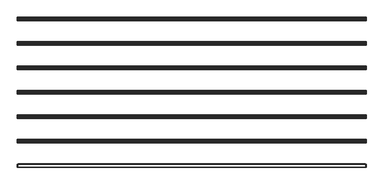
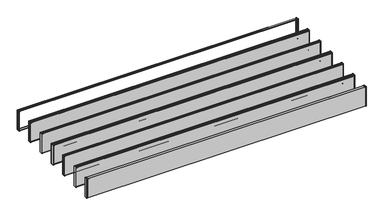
"""IFC4 building model written with IfcOpenShell, lengths in millimetres: proxy geometry, durlum_POLYLAM_KS : durlum_POLYLAM-KS/-S 40."""

from ifc_helpers import new_model, si_unit, frame, origin, place, context, project, spatial, polyline, circle_curve, outline, extrude, source, transform, mapped, element, save
from ifc_brep_helpers import plane_surface, cylinder_surface, advanced_brep


def generic_models_343f9e44(model_context):
    return source(origin(), model_context, "Body", "SolidModel", [
        advanced_brep(
        [(1995.0, 298.0, 1990.9), (1995.0, 288.0, 1990.9), (1995.0, 288.0, 1990.0604454), (1995.0, 299.0, 1990.0604454), (1995.0, 299.0, 1691.9), (1995.0, 261.0, 1691.9), (1995.0, 261.0, 1989.8155735), (1995.0, 272.0, 1989.8155735), (1995.0, 272.0, 1990.9), (1995.0, 262.0, 1990.9), (1995.0, 260.0, 1988.9), (1995.0, 260.0, 1692.9), (1995.0, 262.0, 1690.9), (1995.0, 298.0, 1690.9), (1995.0, 300.0, 1692.9), (1995.0, 300.0, 1988.9), (-1995.0, 298.0, 1990.9), (-1995.0, 300.0, 1988.9), (-1995.0, 300.0, 1692.9), (-1995.0, 298.0, 1690.9), (-1995.0, 262.0, 1690.9), (-1995.0, 260.0, 1692.9), (-1995.0, 260.0, 1988.9), (-1995.0, 262.0, 1990.9), (-1995.0, 272.0, 1990.9), (-1995.0, 272.0, 1989.8155735), (-1995.0, 261.0, 1989.8155735), (-1995.0, 261.0, 1691.9), (-1995.0, 299.0, 1691.9), (-1995.0, 299.0, 1990.0604454), (-1995.0, 288.0, 1990.0604454), (-1995.0, 288.0, 1990.9), (-1986.5, 299.0, 1982.4), (1986.5, 299.0, 1982.4), (1986.5, 299.0, 1699.4), (-1986.5, 299.0, 1699.4), (1986.5, 261.0, 1982.4), (-1986.5, 261.0, 1982.4), (-1986.5, 261.0, 1699.4), (1986.5, 261.0, 1699.4), (-1986.5, 260.0, 1982.4), (1986.5, 260.0, 1982.4), (1986.5, 260.0, 1699.4), (-1986.5, 260.0, 1699.4), (1986.5, 300.0, 1982.4), (-1986.5, 300.0, 1982.4), (-1986.5, 300.0, 1699.4), (1986.5, 300.0, 1699.4)],
        [
            (0, 1),
            (1, 2),
            (2, 3),
            (3, 4),
            (4, 5),
            (5, 6),
            (6, 7),
            (7, 8),
            (8, 9),
            (9, 10, circle_curve(frame((1995.0, 262.0, 1988.9), z_axis=(1.0, 0.0, 0.0), x_axis=(0.0, 1.0, 0.0)), 2.0)),
            (10, 11),
            (11, 12, circle_curve(frame((1995.0, 262.0, 1692.9), z_axis=(1.0, 0.0, 0.0), x_axis=(0.0, 1.0, 0.0)), 2.0)),
            (12, 13),
            (13, 14, circle_curve(frame((1995.0, 298.0, 1692.9), z_axis=(1.0, 0.0, 0.0), x_axis=(0.0, 1.0, 0.0)), 2.0)),
            (14, 15),
            (15, 0, circle_curve(frame((1995.0, 298.0, 1988.9), z_axis=(1.0, 0.0, 0.0), x_axis=(0.0, 1.0, 0.0)), 2.0)),
            (16, 17, circle_curve(frame((-1995.0, 298.0, 1988.9), z_axis=(-1.0, 0.0, 0.0), x_axis=(0.0, 1.0, 0.0)), 2.0)),
            (17, 18),
            (18, 19, circle_curve(frame((-1995.0, 298.0, 1692.9), z_axis=(-1.0, 0.0, 0.0), x_axis=(0.0, 1.0, 0.0)), 2.0)),
            (19, 20),
            (20, 21, circle_curve(frame((-1995.0, 262.0, 1692.9), z_axis=(-1.0, 0.0, 0.0), x_axis=(0.0, 1.0, 0.0)), 2.0)),
            (21, 22),
            (22, 23, circle_curve(frame((-1995.0, 262.0, 1988.9), z_axis=(-1.0, 0.0, 0.0), x_axis=(0.0, 1.0, 0.0)), 2.0)),
            (23, 24),
            (24, 25),
            (25, 26),
            (26, 27),
            (27, 28),
            (28, 29),
            (29, 30),
            (30, 31),
            (31, 16),
            (0, 16),
            (31, 1),
            (30, 2),
            (29, 3),
            (28, 4),
            (32, 33),
            (33, 34),
            (34, 35),
            (35, 32),
            (27, 5),
            (26, 6),
            (36, 37),
            (37, 38),
            (38, 39),
            (39, 36),
            (25, 7),
            (24, 8),
            (23, 9),
            (10, 22),
            (21, 11),
            (40, 41),
            (41, 42),
            (42, 43),
            (43, 40),
            (12, 20),
            (19, 13),
            (14, 18),
            (17, 15),
            (44, 45),
            (45, 46),
            (46, 47),
            (47, 44),
            (44, 33),
            (32, 45),
            (36, 41),
            (40, 37),
            (35, 46),
            (43, 38),
            (34, 47),
            (42, 39),
        ],
        [
            plane_surface(frame((1995.0, 288.0, 1990.9), z_axis=(1.0, 0.0, 0.0), x_axis=(0.0, -1.0, 0.0))),
            plane_surface(frame((-1995.0, 288.0, 1990.9), z_axis=(-1.0, 0.0, 0.0), x_axis=(0.0, 1.0, 0.0))),
            plane_surface(frame((1995.0, 298.0, 1990.9), z_axis=(0.0, 0.0, 1.0), x_axis=(-1.0, 0.0, 0.0))),
            plane_surface(frame((1995.0, 288.0, 1990.9), z_axis=(0.0, -1.0, 0.0), x_axis=(-1.0, 0.0, 0.0))),
            plane_surface(frame((1995.0, 288.0, 1990.0604454), z_axis=(0.0, 0.0, -1.0), x_axis=(-1.0, 0.0, 0.0))),
            plane_surface(frame((1995.0, 299.0, 1990.0604454), z_axis=(0.0, -1.0, 0.0), x_axis=(-1.0, 0.0, 0.0))),
            plane_surface(frame((1995.0, 299.0, 1691.9), z_axis=(0.0, 0.0, 1.0), x_axis=(-1.0, 0.0, 0.0))),
            plane_surface(frame((1995.0, 261.0, 1691.9), z_axis=(0.0, 1.0, 0.0), x_axis=(-1.0, 0.0, 0.0))),
            plane_surface(frame((1995.0, 261.0, 1989.8155735), z_axis=(0.0, 0.0, -1.0), x_axis=(-1.0, 0.0, 0.0))),
            plane_surface(frame((1995.0, 272.0, 1989.8155735), z_axis=(0.0, 1.0, 0.0), x_axis=(-1.0, 0.0, 0.0))),
            plane_surface(frame((1995.0, 272.0, 1990.9), z_axis=(0.0, 0.0, 1.0), x_axis=(-1.0, 0.0, 0.0))),
            plane_surface(frame((1995.0, 260.0, 1988.9), z_axis=(0.0, -1.0, 0.0), x_axis=(-1.0, 0.0, 0.0))),
            plane_surface(frame((1995.0, 262.0, 1690.9), z_axis=(0.0, 0.0, -1.0), x_axis=(-1.0, 0.0, 0.0))),
            plane_surface(frame((1995.0, 300.0, 1692.9), z_axis=(0.0, 1.0, 0.0), x_axis=(-1.0, 0.0, 0.0))),
            cylinder_surface(frame((-1995.0, 262.0, 1988.9), z_axis=(1.0, 0.0, 0.0), x_axis=(0.0, 1.0, 0.0)), 2.0),
            cylinder_surface(frame((-1995.0, 262.0, 1692.9), z_axis=(1.0, 0.0, 0.0), x_axis=(0.0, 1.0, 0.0)), 2.0),
            cylinder_surface(frame((-1995.0, 298.0, 1692.9), z_axis=(1.0, 0.0, 0.0), x_axis=(0.0, 1.0, 0.0)), 2.0),
            cylinder_surface(frame((-1995.0, 298.0, 1988.9), z_axis=(1.0, 0.0, 0.0), x_axis=(0.0, 1.0, 0.0)), 2.0),
            plane_surface(frame((1986.5, 260.0, 1982.4), z_axis=(0.0, 0.0, -1.0), x_axis=(0.0, 1.0, 0.0))),
            plane_surface(frame((-1986.5, 260.0, 1982.4), z_axis=(1.0, 0.0, 0.0), x_axis=(0.0, 1.0, 0.0))),
            plane_surface(frame((-1986.5, 260.0, 1699.4), z_axis=(0.0, 0.0, 1.0), x_axis=(0.0, 1.0, 0.0))),
            plane_surface(frame((1986.5, 260.0, 1699.4), z_axis=(-1.0, 0.0, 0.0), x_axis=(0.0, 1.0, 0.0))),
        ],
        [
            (0, [[1, 2, 3, 4, 5, 6, 7, 8, 9, 10, 11, 12, 13, 14, 15, 16]]),
            (1, [[17, 18, 19, 20, 21, 22, 23, 24, 25, 26, 27, 28, 29, 30, 31, 32]]),
            (2, [[-1, 33, -32, 34]]),
            (3, [[-2, -34, -31, 35]]),
            (4, [[-3, -35, -30, 36]]),
            (5, [[-4, -36, -29, 37], [38, 39, 40, 41]]),
            (6, [[-5, -37, -28, 42]]),
            (7, [[-6, -42, -27, 43], [44, 45, 46, 47]]),
            (8, [[-7, -43, -26, 48]]),
            (9, [[-8, -48, -25, 49]]),
            (10, [[-9, -49, -24, 50]]),
            (11, [[-11, 51, -22, 52], [53, 54, 55, 56]]),
            (12, [[-13, 57, -20, 58]]),
            (13, [[-15, 59, -18, 60], [61, 62, 63, 64]]),
            (14, [[-10, -50, -23, -51]]),
            (15, [[-12, -52, -21, -57]]),
            (16, [[-14, -58, -19, -59]]),
            (17, [[-16, -60, -17, -33]]),
            (18, [[65, -38, 66, -61]]),
            (18, [[67, -53, 68, -44]]),
            (19, [[-66, -41, 69, -62]]),
            (19, [[-68, -56, 70, -45]]),
            (20, [[-69, -40, 71, -63]]),
            (20, [[-70, -55, 72, -46]]),
            (21, [[-65, -64, -71, -39]]),
            (21, [[-67, -47, -72, -54]]),
        ],
    ),
        extrude(outline(polyline([(1986.5, 19.0), (-1986.5, 19.0), (-1986.5, 20.0), (1986.5, 20.0), (1986.5, 19.0)])), frame((0.0, 0.0, 1699.4), z_axis=(0.0, 0.0, 1.0), x_axis=(1.0, 0.0, 0.0)), (0.0, 0.0, 1.0), 283.0),
        extrude(outline(polyline([(1986.5, -20.0), (-1986.5, -20.0), (-1986.5, -19.0), (1986.5, -19.0), (1986.5, -20.0)])), frame((0.0, 0.0, 1699.4), z_axis=(0.0, 0.0, 1.0), x_axis=(1.0, 0.0, 0.0)), (0.0, 0.0, 1.0), 283.0),
        extrude(outline(polyline([(1993.0, 19.0), (1995.0, 19.0), (1995.0, -19.0), (1993.0, -19.0), (1993.0, 19.0)])), frame((0.0, 0.0, 1691.9), z_axis=(0.0, 0.0, 1.0), x_axis=(1.0, 0.0, 0.0)), (0.0, 0.0, 1.0), 298.1604454),
        extrude(outline(polyline([(-1995.0, 19.0), (-1993.0, 19.0), (-1993.0, -19.0), (-1995.0, -19.0), (-1995.0, 19.0)])), frame((0.0, 0.0, 1691.9), z_axis=(0.0, 0.0, 1.0), x_axis=(1.0, 0.0, 0.0)), (0.0, 0.0, 1.0), 298.1604454),
        advanced_brep(
        [(1995.0, 18.0, 1990.9), (1995.0, 8.0, 1990.9), (1995.0, 8.0, 1990.0604454), (1995.0, 19.0, 1990.0604454), (1995.0, 19.0, 1691.9), (1995.0, -19.0, 1691.9), (1995.0, -19.0, 1989.8155735), (1995.0, -8.0, 1989.8155735), (1995.0, -8.0, 1990.9), (1995.0, -18.0, 1990.9), (1995.0, -20.0, 1988.9), (1995.0, -20.0, 1692.9), (1995.0, -18.0, 1690.9), (1995.0, 18.0, 1690.9), (1995.0, 20.0, 1692.9), (1995.0, 20.0, 1988.9), (-1995.0, 18.0, 1990.9), (-1995.0, 20.0, 1988.9), (-1995.0, 20.0, 1692.9), (-1995.0, 18.0, 1690.9), (-1995.0, -18.0, 1690.9), (-1995.0, -20.0, 1692.9), (-1995.0, -20.0, 1988.9), (-1995.0, -18.0, 1990.9), (-1995.0, -8.0, 1990.9), (-1995.0, -8.0, 1989.8155735), (-1995.0, -19.0, 1989.8155735), (-1995.0, -19.0, 1691.9), (-1995.0, 19.0, 1691.9), (-1995.0, 19.0, 1990.0604454), (-1995.0, 8.0, 1990.0604454), (-1995.0, 8.0, 1990.9), (-1986.5, 19.0, 1982.4), (1986.5, 19.0, 1982.4), (1986.5, 19.0, 1699.4), (-1986.5, 19.0, 1699.4), (1986.5, -19.0, 1982.4), (-1986.5, -19.0, 1982.4), (-1986.5, -19.0, 1699.4), (1986.5, -19.0, 1699.4), (-1986.5, -20.0, 1982.4), (1986.5, -20.0, 1982.4), (1986.5, -20.0, 1699.4), (-1986.5, -20.0, 1699.4), (1986.5, 20.0, 1982.4), (-1986.5, 20.0, 1982.4), (-1986.5, 20.0, 1699.4), (1986.5, 20.0, 1699.4)],
        [
            (0, 1),
            (1, 2),
            (2, 3),
            (3, 4),
            (4, 5),
            (5, 6),
            (6, 7),
            (7, 8),
            (8, 9),
            (9, 10, circle_curve(frame((1995.0, -18.0, 1988.9), z_axis=(1.0, 0.0, 0.0), x_axis=(0.0, 1.0, 0.0)), 2.0)),
            (10, 11),
            (11, 12, circle_curve(frame((1995.0, -18.0, 1692.9), z_axis=(1.0, 0.0, 0.0), x_axis=(0.0, 1.0, 0.0)), 2.0)),
            (12, 13),
            (13, 14, circle_curve(frame((1995.0, 18.0, 1692.9), z_axis=(1.0, 0.0, 0.0), x_axis=(0.0, 1.0, 0.0)), 2.0)),
            (14, 15),
            (15, 0, circle_curve(frame((1995.0, 18.0, 1988.9), z_axis=(1.0, 0.0, 0.0), x_axis=(0.0, 1.0, 0.0)), 2.0)),
            (16, 17, circle_curve(frame((-1995.0, 18.0, 1988.9), z_axis=(-1.0, 0.0, 0.0), x_axis=(0.0, 1.0, 0.0)), 2.0)),
            (17, 18),
            (18, 19, circle_curve(frame((-1995.0, 18.0, 1692.9), z_axis=(-1.0, 0.0, 0.0), x_axis=(0.0, 1.0, 0.0)), 2.0)),
            (19, 20),
            (20, 21, circle_curve(frame((-1995.0, -18.0, 1692.9), z_axis=(-1.0, 0.0, 0.0), x_axis=(0.0, 1.0, 0.0)), 2.0)),
            (21, 22),
            (22, 23, circle_curve(frame((-1995.0, -18.0, 1988.9), z_axis=(-1.0, 0.0, 0.0), x_axis=(0.0, 1.0, 0.0)), 2.0)),
            (23, 24),
            (24, 25),
            (25, 26),
            (26, 27),
            (27, 28),
            (28, 29),
            (29, 30),
            (30, 31),
            (31, 16),
            (0, 16),
            (31, 1),
            (30, 2),
            (29, 3),
            (28, 4),
            (32, 33),
            (33, 34),
            (34, 35),
            (35, 32),
            (27, 5),
            (26, 6),
            (36, 37),
            (37, 38),
            (38, 39),
            (39, 36),
            (25, 7),
            (24, 8),
            (23, 9),
            (10, 22),
            (21, 11),
            (40, 41),
            (41, 42),
            (42, 43),
            (43, 40),
            (12, 20),
            (19, 13),
            (14, 18),
            (17, 15),
            (44, 45),
            (45, 46),
            (46, 47),
            (47, 44),
            (44, 33),
            (32, 45),
            (36, 41),
            (40, 37),
            (35, 46),
            (43, 38),
            (34, 47),
            (42, 39),
        ],
        [
            plane_surface(frame((1995.0, 8.0, 1990.9), z_axis=(1.0, 0.0, 0.0), x_axis=(0.0, -1.0, 0.0))),
            plane_surface(frame((-1995.0, 8.0, 1990.9), z_axis=(-1.0, 0.0, 0.0), x_axis=(0.0, 1.0, 0.0))),
            plane_surface(frame((1995.0, 18.0, 1990.9), z_axis=(0.0, 0.0, 1.0), x_axis=(-1.0, 0.0, 0.0))),
            plane_surface(frame((1995.0, 8.0, 1990.9), z_axis=(0.0, -1.0, 0.0), x_axis=(-1.0, 0.0, 0.0))),
            plane_surface(frame((1995.0, 8.0, 1990.0604454), z_axis=(0.0, 0.0, -1.0), x_axis=(-1.0, 0.0, 0.0))),
            plane_surface(frame((1995.0, 19.0, 1990.0604454), z_axis=(0.0, -1.0, 0.0), x_axis=(-1.0, 0.0, 0.0))),
            plane_surface(frame((1995.0, 19.0, 1691.9), z_axis=(0.0, 0.0, 1.0), x_axis=(-1.0, 0.0, 0.0))),
            plane_surface(frame((1995.0, -19.0, 1691.9), z_axis=(0.0, 1.0, 0.0), x_axis=(-1.0, 0.0, 0.0))),
            plane_surface(frame((1995.0, -19.0, 1989.8155735), z_axis=(0.0, 0.0, -1.0), x_axis=(-1.0, 0.0, 0.0))),
            plane_surface(frame((1995.0, -8.0, 1989.8155735), z_axis=(0.0, 1.0, 0.0), x_axis=(-1.0, 0.0, 0.0))),
            plane_surface(frame((1995.0, -8.0, 1990.9), z_axis=(0.0, 0.0, 1.0), x_axis=(-1.0, 0.0, 0.0))),
            plane_surface(frame((1995.0, -20.0, 1988.9), z_axis=(0.0, -1.0, 0.0), x_axis=(-1.0, 0.0, 0.0))),
            plane_surface(frame((1995.0, -18.0, 1690.9), z_axis=(0.0, 0.0, -1.0), x_axis=(-1.0, 0.0, 0.0))),
            plane_surface(frame((1995.0, 20.0, 1692.9), z_axis=(0.0, 1.0, 0.0), x_axis=(-1.0, 0.0, 0.0))),
            cylinder_surface(frame((-1995.0, -18.0, 1988.9), z_axis=(1.0, 0.0, 0.0), x_axis=(0.0, 1.0, 0.0)), 2.0),
            cylinder_surface(frame((-1995.0, -18.0, 1692.9), z_axis=(1.0, 0.0, 0.0), x_axis=(0.0, 1.0, 0.0)), 2.0),
            cylinder_surface(frame((-1995.0, 18.0, 1692.9), z_axis=(1.0, 0.0, 0.0), x_axis=(0.0, 1.0, 0.0)), 2.0),
            cylinder_surface(frame((-1995.0, 18.0, 1988.9), z_axis=(1.0, 0.0, 0.0), x_axis=(0.0, 1.0, 0.0)), 2.0),
            plane_surface(frame((1986.5, -20.0, 1982.4), z_axis=(0.0, 0.0, -1.0), x_axis=(0.0, 1.0, 0.0))),
            plane_surface(frame((-1986.5, -20.0, 1982.4), z_axis=(1.0, 0.0, 0.0), x_axis=(0.0, 1.0, 0.0))),
            plane_surface(frame((-1986.5, -20.0, 1699.4), z_axis=(0.0, 0.0, 1.0), x_axis=(0.0, 1.0, 0.0))),
            plane_surface(frame((1986.5, -20.0, 1699.4), z_axis=(-1.0, 0.0, 0.0), x_axis=(0.0, 1.0, 0.0))),
        ],
        [
            (0, [[1, 2, 3, 4, 5, 6, 7, 8, 9, 10, 11, 12, 13, 14, 15, 16]]),
            (1, [[17, 18, 19, 20, 21, 22, 23, 24, 25, 26, 27, 28, 29, 30, 31, 32]]),
            (2, [[-1, 33, -32, 34]]),
            (3, [[-2, -34, -31, 35]]),
            (4, [[-3, -35, -30, 36]]),
            (5, [[-4, -36, -29, 37], [38, 39, 40, 41]]),
            (6, [[-5, -37, -28, 42]]),
            (7, [[-6, -42, -27, 43], [44, 45, 46, 47]]),
            (8, [[-7, -43, -26, 48]]),
            (9, [[-8, -48, -25, 49]]),
            (10, [[-9, -49, -24, 50]]),
            (11, [[-11, 51, -22, 52], [53, 54, 55, 56]]),
            (12, [[-13, 57, -20, 58]]),
            (13, [[-15, 59, -18, 60], [61, 62, 63, 64]]),
            (14, [[-10, -50, -23, -51]]),
            (15, [[-12, -52, -21, -57]]),
            (16, [[-14, -58, -19, -59]]),
            (17, [[-16, -60, -17, -33]]),
            (18, [[65, -38, 66, -61]]),
            (18, [[67, -53, 68, -44]]),
            (19, [[-66, -41, 69, -62]]),
            (19, [[-68, -56, 70, -45]]),
            (20, [[-69, -40, 71, -63]]),
            (20, [[-70, -55, 72, -46]]),
            (21, [[-65, -64, -71, -39]]),
            (21, [[-67, -47, -72, -54]]),
        ],
    ),
        extrude(outline(polyline([(1986.5, -261.0), (-1986.5, -261.0), (-1986.5, -260.0), (1986.5, -260.0), (1986.5, -261.0)])), frame((0.0, 0.0, 1699.4), z_axis=(0.0, 0.0, 1.0), x_axis=(1.0, 0.0, 0.0)), (0.0, 0.0, 1.0), 283.0),
        extrude(outline(polyline([(1986.5, -300.0), (-1986.5, -300.0), (-1986.5, -299.0), (1986.5, -299.0), (1986.5, -300.0)])), frame((0.0, 0.0, 1699.4), z_axis=(0.0, 0.0, 1.0), x_axis=(1.0, 0.0, 0.0)), (0.0, 0.0, 1.0), 283.0),
        extrude(outline(polyline([(1993.0, -261.0), (1995.0, -261.0), (1995.0, -299.0), (1993.0, -299.0), (1993.0, -261.0)])), frame((0.0, 0.0, 1691.9), z_axis=(0.0, 0.0, 1.0), x_axis=(1.0, 0.0, 0.0)), (0.0, 0.0, 1.0), 298.1604454),
        extrude(outline(polyline([(-1995.0, -261.0), (-1993.0, -261.0), (-1993.0, -299.0), (-1995.0, -299.0), (-1995.0, -261.0)])), frame((0.0, 0.0, 1691.9), z_axis=(0.0, 0.0, 1.0), x_axis=(1.0, 0.0, 0.0)), (0.0, 0.0, 1.0), 298.1604454),
        advanced_brep(
        [(1995.0, -262.0, 1990.9), (1995.0, -272.0, 1990.9), (1995.0, -272.0, 1990.0604454), (1995.0, -261.0, 1990.0604454), (1995.0, -261.0, 1691.9), (1995.0, -299.0, 1691.9), (1995.0, -299.0, 1989.8155735), (1995.0, -288.0, 1989.8155735), (1995.0, -288.0, 1990.9), (1995.0, -298.0, 1990.9), (1995.0, -300.0, 1988.9), (1995.0, -300.0, 1692.9), (1995.0, -298.0, 1690.9), (1995.0, -262.0, 1690.9), (1995.0, -260.0, 1692.9), (1995.0, -260.0, 1988.9), (-1995.0, -262.0, 1990.9), (-1995.0, -260.0, 1988.9), (-1995.0, -260.0, 1692.9), (-1995.0, -262.0, 1690.9), (-1995.0, -298.0, 1690.9), (-1995.0, -300.0, 1692.9), (-1995.0, -300.0, 1988.9), (-1995.0, -298.0, 1990.9), (-1995.0, -288.0, 1990.9), (-1995.0, -288.0, 1989.8155735), (-1995.0, -299.0, 1989.8155735), (-1995.0, -299.0, 1691.9), (-1995.0, -261.0, 1691.9), (-1995.0, -261.0, 1990.0604454), (-1995.0, -272.0, 1990.0604454), (-1995.0, -272.0, 1990.9), (-1986.5, -261.0, 1982.4), (1986.5, -261.0, 1982.4), (1986.5, -261.0, 1699.4), (-1986.5, -261.0, 1699.4), (1986.5, -299.0, 1982.4), (-1986.5, -299.0, 1982.4), (-1986.5, -299.0, 1699.4), (1986.5, -299.0, 1699.4), (-1986.5, -300.0, 1982.4), (1986.5, -300.0, 1982.4), (1986.5, -300.0, 1699.4), (-1986.5, -300.0, 1699.4), (1986.5, -260.0, 1982.4), (-1986.5, -260.0, 1982.4), (-1986.5, -260.0, 1699.4), (1986.5, -260.0, 1699.4)],
        [
            (0, 1),
            (1, 2),
            (2, 3),
            (3, 4),
            (4, 5),
            (5, 6),
            (6, 7),
            (7, 8),
            (8, 9),
            (9, 10, circle_curve(frame((1995.0, -298.0, 1988.9), z_axis=(1.0, 0.0, 0.0), x_axis=(0.0, 1.0, 0.0)), 2.0)),
            (10, 11),
            (11, 12, circle_curve(frame((1995.0, -298.0, 1692.9), z_axis=(1.0, 0.0, 0.0), x_axis=(0.0, 1.0, 0.0)), 2.0)),
            (12, 13),
            (13, 14, circle_curve(frame((1995.0, -262.0, 1692.9), z_axis=(1.0, 0.0, 0.0), x_axis=(0.0, 1.0, 0.0)), 2.0)),
            (14, 15),
            (15, 0, circle_curve(frame((1995.0, -262.0, 1988.9), z_axis=(1.0, 0.0, 0.0), x_axis=(0.0, 1.0, 0.0)), 2.0)),
            (16, 17, circle_curve(frame((-1995.0, -262.0, 1988.9), z_axis=(-1.0, 0.0, 0.0), x_axis=(0.0, 1.0, 0.0)), 2.0)),
            (17, 18),
            (18, 19, circle_curve(frame((-1995.0, -262.0, 1692.9), z_axis=(-1.0, 0.0, 0.0), x_axis=(0.0, 1.0, 0.0)), 2.0)),
            (19, 20),
            (20, 21, circle_curve(frame((-1995.0, -298.0, 1692.9), z_axis=(-1.0, 0.0, 0.0), x_axis=(0.0, 1.0, 0.0)), 2.0)),
            (21, 22),
            (22, 23, circle_curve(frame((-1995.0, -298.0, 1988.9), z_axis=(-1.0, 0.0, 0.0), x_axis=(0.0, 1.0, 0.0)), 2.0)),
            (23, 24),
            (24, 25),
            (25, 26),
            (26, 27),
            (27, 28),
            (28, 29),
            (29, 30),
            (30, 31),
            (31, 16),
            (0, 16),
            (31, 1),
            (30, 2),
            (29, 3),
            (28, 4),
            (32, 33),
            (33, 34),
            (34, 35),
            (35, 32),
            (27, 5),
            (26, 6),
            (36, 37),
            (37, 38),
            (38, 39),
            (39, 36),
            (25, 7),
            (24, 8),
            (23, 9),
            (10, 22),
            (21, 11),
            (40, 41),
            (41, 42),
            (42, 43),
            (43, 40),
            (12, 20),
            (19, 13),
            (14, 18),
            (17, 15),
            (44, 45),
            (45, 46),
            (46, 47),
            (47, 44),
            (44, 33),
            (32, 45),
            (36, 41),
            (40, 37),
            (35, 46),
            (43, 38),
            (34, 47),
            (42, 39),
        ],
        [
            plane_surface(frame((1995.0, -272.0, 1990.9), z_axis=(1.0, 0.0, 0.0), x_axis=(0.0, -1.0, 0.0))),
            plane_surface(frame((-1995.0, -272.0, 1990.9), z_axis=(-1.0, 0.0, 0.0), x_axis=(0.0, 1.0, 0.0))),
            plane_surface(frame((1995.0, -262.0, 1990.9), z_axis=(0.0, 0.0, 1.0), x_axis=(-1.0, 0.0, 0.0))),
            plane_surface(frame((1995.0, -272.0, 1990.9), z_axis=(0.0, -1.0, 0.0), x_axis=(-1.0, 0.0, 0.0))),
            plane_surface(frame((1995.0, -272.0, 1990.0604454), z_axis=(0.0, 0.0, -1.0), x_axis=(-1.0, 0.0, 0.0))),
            plane_surface(frame((1995.0, -261.0, 1990.0604454), z_axis=(0.0, -1.0, 0.0), x_axis=(-1.0, 0.0, 0.0))),
            plane_surface(frame((1995.0, -261.0, 1691.9), z_axis=(0.0, 0.0, 1.0), x_axis=(-1.0, 0.0, 0.0))),
            plane_surface(frame((1995.0, -299.0, 1691.9), z_axis=(0.0, 1.0, 0.0), x_axis=(-1.0, 0.0, 0.0))),
            plane_surface(frame((1995.0, -299.0, 1989.8155735), z_axis=(0.0, 0.0, -1.0), x_axis=(-1.0, 0.0, 0.0))),
            plane_surface(frame((1995.0, -288.0, 1989.8155735), z_axis=(0.0, 1.0, 0.0), x_axis=(-1.0, 0.0, 0.0))),
            plane_surface(frame((1995.0, -288.0, 1990.9), z_axis=(0.0, 0.0, 1.0), x_axis=(-1.0, 0.0, 0.0))),
            plane_surface(frame((1995.0, -300.0, 1988.9), z_axis=(0.0, -1.0, 0.0), x_axis=(-1.0, 0.0, 0.0))),
            plane_surface(frame((1995.0, -298.0, 1690.9), z_axis=(0.0, 0.0, -1.0), x_axis=(-1.0, 0.0, 0.0))),
            plane_surface(frame((1995.0, -260.0, 1692.9), z_axis=(0.0, 1.0, 0.0), x_axis=(-1.0, 0.0, 0.0))),
            cylinder_surface(frame((-1995.0, -298.0, 1988.9), z_axis=(1.0, 0.0, 0.0), x_axis=(0.0, 1.0, 0.0)), 2.0),
            cylinder_surface(frame((-1995.0, -298.0, 1692.9), z_axis=(1.0, 0.0, 0.0), x_axis=(0.0, 1.0, 0.0)), 2.0),
            cylinder_surface(frame((-1995.0, -262.0, 1692.9), z_axis=(1.0, 0.0, 0.0), x_axis=(0.0, 1.0, 0.0)), 2.0),
            cylinder_surface(frame((-1995.0, -262.0, 1988.9), z_axis=(1.0, 0.0, 0.0), x_axis=(0.0, 1.0, 0.0)), 2.0),
            plane_surface(frame((1986.5, -300.0, 1982.4), z_axis=(0.0, 0.0, -1.0), x_axis=(0.0, 1.0, 0.0))),
            plane_surface(frame((-1986.5, -300.0, 1982.4), z_axis=(1.0, 0.0, 0.0), x_axis=(0.0, 1.0, 0.0))),
            plane_surface(frame((-1986.5, -300.0, 1699.4), z_axis=(0.0, 0.0, 1.0), x_axis=(0.0, 1.0, 0.0))),
            plane_surface(frame((1986.5, -300.0, 1699.4), z_axis=(-1.0, 0.0, 0.0), x_axis=(0.0, 1.0, 0.0))),
        ],
        [
            (0, [[1, 2, 3, 4, 5, 6, 7, 8, 9, 10, 11, 12, 13, 14, 15, 16]]),
            (1, [[17, 18, 19, 20, 21, 22, 23, 24, 25, 26, 27, 28, 29, 30, 31, 32]]),
            (2, [[-1, 33, -32, 34]]),
            (3, [[-2, -34, -31, 35]]),
            (4, [[-3, -35, -30, 36]]),
            (5, [[-4, -36, -29, 37], [38, 39, 40, 41]]),
            (6, [[-5, -37, -28, 42]]),
            (7, [[-6, -42, -27, 43], [44, 45, 46, 47]]),
            (8, [[-7, -43, -26, 48]]),
            (9, [[-8, -48, -25, 49]]),
            (10, [[-9, -49, -24, 50]]),
            (11, [[-11, 51, -22, 52], [53, 54, 55, 56]]),
            (12, [[-13, 57, -20, 58]]),
            (13, [[-15, 59, -18, 60], [61, 62, 63, 64]]),
            (14, [[-10, -50, -23, -51]]),
            (15, [[-12, -52, -21, -57]]),
            (16, [[-14, -58, -19, -59]]),
            (17, [[-16, -60, -17, -33]]),
            (18, [[65, -38, 66, -61]]),
            (18, [[67, -53, 68, -44]]),
            (19, [[-66, -41, 69, -62]]),
            (19, [[-68, -56, 70, -45]]),
            (20, [[-69, -40, 71, -63]]),
            (20, [[-70, -55, 72, -46]]),
            (21, [[-65, -64, -71, -39]]),
            (21, [[-67, -47, -72, -54]]),
        ],
    ),
        extrude(outline(polyline([(1986.5, -541.0), (-1986.5, -541.0), (-1986.5, -540.0), (1986.5, -540.0), (1986.5, -541.0)])), frame((0.0, 0.0, 1699.4), z_axis=(0.0, 0.0, 1.0), x_axis=(1.0, 0.0, 0.0)), (0.0, 0.0, 1.0), 283.0),
        extrude(outline(polyline([(1986.5, -580.0), (-1986.5, -580.0), (-1986.5, -579.0), (1986.5, -579.0), (1986.5, -580.0)])), frame((0.0, 0.0, 1699.4), z_axis=(0.0, 0.0, 1.0), x_axis=(1.0, 0.0, 0.0)), (0.0, 0.0, 1.0), 283.0),
        extrude(outline(polyline([(1993.0, -541.0), (1995.0, -541.0), (1995.0, -579.0), (1993.0, -579.0), (1993.0, -541.0)])), frame((0.0, 0.0, 1691.9), z_axis=(0.0, 0.0, 1.0), x_axis=(1.0, 0.0, 0.0)), (0.0, 0.0, 1.0), 298.1604454),
        extrude(outline(polyline([(-1995.0, -541.0), (-1993.0, -541.0), (-1993.0, -579.0), (-1995.0, -579.0), (-1995.0, -541.0)])), frame((0.0, 0.0, 1691.9), z_axis=(0.0, 0.0, 1.0), x_axis=(1.0, 0.0, 0.0)), (0.0, 0.0, 1.0), 298.1604454),
        advanced_brep(
        [(1995.0, -542.0, 1990.9), (1995.0, -552.0, 1990.9), (1995.0, -552.0, 1990.0604454), (1995.0, -541.0, 1990.0604454), (1995.0, -541.0, 1691.9), (1995.0, -579.0, 1691.9), (1995.0, -579.0, 1989.8155735), (1995.0, -568.0, 1989.8155735), (1995.0, -568.0, 1990.9), (1995.0, -578.0, 1990.9), (1995.0, -580.0, 1988.9), (1995.0, -580.0, 1692.9), (1995.0, -578.0, 1690.9), (1995.0, -542.0, 1690.9), (1995.0, -540.0, 1692.9), (1995.0, -540.0, 1988.9), (-1995.0, -542.0, 1990.9), (-1995.0, -540.0, 1988.9), (-1995.0, -540.0, 1692.9), (-1995.0, -542.0, 1690.9), (-1995.0, -578.0, 1690.9), (-1995.0, -580.0, 1692.9), (-1995.0, -580.0, 1988.9), (-1995.0, -578.0, 1990.9), (-1995.0, -568.0, 1990.9), (-1995.0, -568.0, 1989.8155735), (-1995.0, -579.0, 1989.8155735), (-1995.0, -579.0, 1691.9), (-1995.0, -541.0, 1691.9), (-1995.0, -541.0, 1990.0604454), (-1995.0, -552.0, 1990.0604454), (-1995.0, -552.0, 1990.9), (-1986.5, -541.0, 1982.4), (1986.5, -541.0, 1982.4), (1986.5, -541.0, 1699.4), (-1986.5, -541.0, 1699.4), (1986.5, -579.0, 1982.4), (-1986.5, -579.0, 1982.4), (-1986.5, -579.0, 1699.4), (1986.5, -579.0, 1699.4), (-1986.5, -580.0, 1982.4), (1986.5, -580.0, 1982.4), (1986.5, -580.0, 1699.4), (-1986.5, -580.0, 1699.4), (1986.5, -540.0, 1982.4), (-1986.5, -540.0, 1982.4), (-1986.5, -540.0, 1699.4), (1986.5, -540.0, 1699.4)],
        [
            (0, 1),
            (1, 2),
            (2, 3),
            (3, 4),
            (4, 5),
            (5, 6),
            (6, 7),
            (7, 8),
            (8, 9),
            (9, 10, circle_curve(frame((1995.0, -578.0, 1988.9), z_axis=(1.0, 0.0, 0.0), x_axis=(0.0, 1.0, 0.0)), 2.0)),
            (10, 11),
            (11, 12, circle_curve(frame((1995.0, -578.0, 1692.9), z_axis=(1.0, 0.0, 0.0), x_axis=(0.0, 1.0, 0.0)), 2.0)),
            (12, 13),
            (13, 14, circle_curve(frame((1995.0, -542.0, 1692.9), z_axis=(1.0, 0.0, 0.0), x_axis=(0.0, 1.0, 0.0)), 2.0)),
            (14, 15),
            (15, 0, circle_curve(frame((1995.0, -542.0, 1988.9), z_axis=(1.0, 0.0, 0.0), x_axis=(0.0, 1.0, 0.0)), 2.0)),
            (16, 17, circle_curve(frame((-1995.0, -542.0, 1988.9), z_axis=(-1.0, 0.0, 0.0), x_axis=(0.0, 1.0, 0.0)), 2.0)),
            (17, 18),
            (18, 19, circle_curve(frame((-1995.0, -542.0, 1692.9), z_axis=(-1.0, 0.0, 0.0), x_axis=(0.0, 1.0, 0.0)), 2.0)),
            (19, 20),
            (20, 21, circle_curve(frame((-1995.0, -578.0, 1692.9), z_axis=(-1.0, 0.0, 0.0), x_axis=(0.0, 1.0, 0.0)), 2.0)),
            (21, 22),
            (22, 23, circle_curve(frame((-1995.0, -578.0, 1988.9), z_axis=(-1.0, 0.0, 0.0), x_axis=(0.0, 1.0, 0.0)), 2.0)),
            (23, 24),
            (24, 25),
            (25, 26),
            (26, 27),
            (27, 28),
            (28, 29),
            (29, 30),
            (30, 31),
            (31, 16),
            (0, 16),
            (31, 1),
            (30, 2),
            (29, 3),
            (28, 4),
            (32, 33),
            (33, 34),
            (34, 35),
            (35, 32),
            (27, 5),
            (26, 6),
            (36, 37),
            (37, 38),
            (38, 39),
            (39, 36),
            (25, 7),
            (24, 8),
            (23, 9),
            (10, 22),
            (21, 11),
            (40, 41),
            (41, 42),
            (42, 43),
            (43, 40),
            (12, 20),
            (19, 13),
            (14, 18),
            (17, 15),
            (44, 45),
            (45, 46),
            (46, 47),
            (47, 44),
            (44, 33),
            (32, 45),
            (36, 41),
            (40, 37),
            (35, 46),
            (43, 38),
            (34, 47),
            (42, 39),
        ],
        [
            plane_surface(frame((1995.0, -552.0, 1990.9), z_axis=(1.0, 0.0, 0.0), x_axis=(0.0, -1.0, 0.0))),
            plane_surface(frame((-1995.0, -552.0, 1990.9), z_axis=(-1.0, 0.0, 0.0), x_axis=(0.0, 1.0, 0.0))),
            plane_surface(frame((1995.0, -542.0, 1990.9), z_axis=(0.0, 0.0, 1.0), x_axis=(-1.0, 0.0, 0.0))),
            plane_surface(frame((1995.0, -552.0, 1990.9), z_axis=(0.0, -1.0, 0.0), x_axis=(-1.0, 0.0, 0.0))),
            plane_surface(frame((1995.0, -552.0, 1990.0604454), z_axis=(0.0, 0.0, -1.0), x_axis=(-1.0, 0.0, 0.0))),
            plane_surface(frame((1995.0, -541.0, 1990.0604454), z_axis=(0.0, -1.0, 0.0), x_axis=(-1.0, 0.0, 0.0))),
            plane_surface(frame((1995.0, -541.0, 1691.9), z_axis=(0.0, 0.0, 1.0), x_axis=(-1.0, 0.0, 0.0))),
            plane_surface(frame((1995.0, -579.0, 1691.9), z_axis=(0.0, 1.0, 0.0), x_axis=(-1.0, 0.0, 0.0))),
            plane_surface(frame((1995.0, -579.0, 1989.8155735), z_axis=(0.0, 0.0, -1.0), x_axis=(-1.0, 0.0, 0.0))),
            plane_surface(frame((1995.0, -568.0, 1989.8155735), z_axis=(0.0, 1.0, 0.0), x_axis=(-1.0, 0.0, 0.0))),
            plane_surface(frame((1995.0, -568.0, 1990.9), z_axis=(0.0, 0.0, 1.0), x_axis=(-1.0, 0.0, 0.0))),
            plane_surface(frame((1995.0, -580.0, 1988.9), z_axis=(0.0, -1.0, 0.0), x_axis=(-1.0, 0.0, 0.0))),
            plane_surface(frame((1995.0, -578.0, 1690.9), z_axis=(0.0, 0.0, -1.0), x_axis=(-1.0, 0.0, 0.0))),
            plane_surface(frame((1995.0, -540.0, 1692.9), z_axis=(0.0, 1.0, 0.0), x_axis=(-1.0, 0.0, 0.0))),
            cylinder_surface(frame((-1995.0, -578.0, 1988.9), z_axis=(1.0, 0.0, 0.0), x_axis=(0.0, 1.0, 0.0)), 2.0),
            cylinder_surface(frame((-1995.0, -578.0, 1692.9), z_axis=(1.0, 0.0, 0.0), x_axis=(0.0, 1.0, 0.0)), 2.0),
            cylinder_surface(frame((-1995.0, -542.0, 1692.9), z_axis=(1.0, 0.0, 0.0), x_axis=(0.0, 1.0, 0.0)), 2.0),
            cylinder_surface(frame((-1995.0, -542.0, 1988.9), z_axis=(1.0, 0.0, 0.0), x_axis=(0.0, 1.0, 0.0)), 2.0),
            plane_surface(frame((1986.5, -580.0, 1982.4), z_axis=(0.0, 0.0, -1.0), x_axis=(0.0, 1.0, 0.0))),
            plane_surface(frame((-1986.5, -580.0, 1982.4), z_axis=(1.0, 0.0, 0.0), x_axis=(0.0, 1.0, 0.0))),
            plane_surface(frame((-1986.5, -580.0, 1699.4), z_axis=(0.0, 0.0, 1.0), x_axis=(0.0, 1.0, 0.0))),
            plane_surface(frame((1986.5, -580.0, 1699.4), z_axis=(-1.0, 0.0, 0.0), x_axis=(0.0, 1.0, 0.0))),
        ],
        [
            (0, [[1, 2, 3, 4, 5, 6, 7, 8, 9, 10, 11, 12, 13, 14, 15, 16]]),
            (1, [[17, 18, 19, 20, 21, 22, 23, 24, 25, 26, 27, 28, 29, 30, 31, 32]]),
            (2, [[-1, 33, -32, 34]]),
            (3, [[-2, -34, -31, 35]]),
            (4, [[-3, -35, -30, 36]]),
            (5, [[-4, -36, -29, 37], [38, 39, 40, 41]]),
            (6, [[-5, -37, -28, 42]]),
            (7, [[-6, -42, -27, 43], [44, 45, 46, 47]]),
            (8, [[-7, -43, -26, 48]]),
            (9, [[-8, -48, -25, 49]]),
            (10, [[-9, -49, -24, 50]]),
            (11, [[-11, 51, -22, 52], [53, 54, 55, 56]]),
            (12, [[-13, 57, -20, 58]]),
            (13, [[-15, 59, -18, 60], [61, 62, 63, 64]]),
            (14, [[-10, -50, -23, -51]]),
            (15, [[-12, -52, -21, -57]]),
            (16, [[-14, -58, -19, -59]]),
            (17, [[-16, -60, -17, -33]]),
            (18, [[65, -38, 66, -61]]),
            (18, [[67, -53, 68, -44]]),
            (19, [[-66, -41, 69, -62]]),
            (19, [[-68, -56, 70, -45]]),
            (20, [[-69, -40, 71, -63]]),
            (20, [[-70, -55, 72, -46]]),
            (21, [[-65, -64, -71, -39]]),
            (21, [[-67, -47, -72, -54]]),
        ],
    ),
        extrude(outline(polyline([(1986.5, -821.0), (-1986.5, -821.0), (-1986.5, -820.0), (1986.5, -820.0), (1986.5, -821.0)])), frame((0.0, 0.0, 1699.4), z_axis=(0.0, 0.0, 1.0), x_axis=(1.0, 0.0, 0.0)), (0.0, 0.0, 1.0), 283.0),
        extrude(outline(polyline([(1986.5, -860.0), (-1986.5, -860.0), (-1986.5, -859.0), (1986.5, -859.0), (1986.5, -860.0)])), frame((0.0, 0.0, 1699.4), z_axis=(0.0, 0.0, 1.0), x_axis=(1.0, 0.0, 0.0)), (0.0, 0.0, 1.0), 283.0),
        extrude(outline(polyline([(1993.0, -821.0), (1995.0, -821.0), (1995.0, -859.0), (1993.0, -859.0), (1993.0, -821.0)])), frame((0.0, 0.0, 1691.9), z_axis=(0.0, 0.0, 1.0), x_axis=(1.0, 0.0, 0.0)), (0.0, 0.0, 1.0), 298.1604454),
        extrude(outline(polyline([(-1995.0, -821.0), (-1993.0, -821.0), (-1993.0, -859.0), (-1995.0, -859.0), (-1995.0, -821.0)])), frame((0.0, 0.0, 1691.9), z_axis=(0.0, 0.0, 1.0), x_axis=(1.0, 0.0, 0.0)), (0.0, 0.0, 1.0), 298.1604454),
        advanced_brep(
        [(1995.0, -822.0, 1990.9), (1995.0, -832.0, 1990.9), (1995.0, -832.0, 1990.0604454), (1995.0, -821.0, 1990.0604454), (1995.0, -821.0, 1691.9), (1995.0, -859.0, 1691.9), (1995.0, -859.0, 1989.8155735), (1995.0, -848.0, 1989.8155735), (1995.0, -848.0, 1990.9), (1995.0, -858.0, 1990.9), (1995.0, -860.0, 1988.9), (1995.0, -860.0, 1692.9), (1995.0, -858.0, 1690.9), (1995.0, -822.0, 1690.9), (1995.0, -820.0, 1692.9), (1995.0, -820.0, 1988.9), (-1995.0, -822.0, 1990.9), (-1995.0, -820.0, 1988.9), (-1995.0, -820.0, 1692.9), (-1995.0, -822.0, 1690.9), (-1995.0, -858.0, 1690.9), (-1995.0, -860.0, 1692.9), (-1995.0, -860.0, 1988.9), (-1995.0, -858.0, 1990.9), (-1995.0, -848.0, 1990.9), (-1995.0, -848.0, 1989.8155735), (-1995.0, -859.0, 1989.8155735), (-1995.0, -859.0, 1691.9), (-1995.0, -821.0, 1691.9), (-1995.0, -821.0, 1990.0604454), (-1995.0, -832.0, 1990.0604454), (-1995.0, -832.0, 1990.9), (-1986.5, -821.0, 1982.4), (1986.5, -821.0, 1982.4), (1986.5, -821.0, 1699.4), (-1986.5, -821.0, 1699.4), (1986.5, -859.0, 1982.4), (-1986.5, -859.0, 1982.4), (-1986.5, -859.0, 1699.4), (1986.5, -859.0, 1699.4), (-1986.5, -860.0, 1982.4), (1986.5, -860.0, 1982.4), (1986.5, -860.0, 1699.4), (-1986.5, -860.0, 1699.4), (1986.5, -820.0, 1982.4), (-1986.5, -820.0, 1982.4), (-1986.5, -820.0, 1699.4), (1986.5, -820.0, 1699.4)],
        [
            (0, 1),
            (1, 2),
            (2, 3),
            (3, 4),
            (4, 5),
            (5, 6),
            (6, 7),
            (7, 8),
            (8, 9),
            (9, 10, circle_curve(frame((1995.0, -858.0, 1988.9), z_axis=(1.0, 0.0, 0.0), x_axis=(0.0, 1.0, 0.0)), 2.0)),
            (10, 11),
            (11, 12, circle_curve(frame((1995.0, -858.0, 1692.9), z_axis=(1.0, 0.0, 0.0), x_axis=(0.0, 1.0, 0.0)), 2.0)),
            (12, 13),
            (13, 14, circle_curve(frame((1995.0, -822.0, 1692.9), z_axis=(1.0, 0.0, 0.0), x_axis=(0.0, 1.0, 0.0)), 2.0)),
            (14, 15),
            (15, 0, circle_curve(frame((1995.0, -822.0, 1988.9), z_axis=(1.0, 0.0, 0.0), x_axis=(0.0, 1.0, 0.0)), 2.0)),
            (16, 17, circle_curve(frame((-1995.0, -822.0, 1988.9), z_axis=(-1.0, 0.0, 0.0), x_axis=(0.0, 1.0, 0.0)), 2.0)),
            (17, 18),
            (18, 19, circle_curve(frame((-1995.0, -822.0, 1692.9), z_axis=(-1.0, 0.0, 0.0), x_axis=(0.0, 1.0, 0.0)), 2.0)),
            (19, 20),
            (20, 21, circle_curve(frame((-1995.0, -858.0, 1692.9), z_axis=(-1.0, 0.0, 0.0), x_axis=(0.0, 1.0, 0.0)), 2.0)),
            (21, 22),
            (22, 23, circle_curve(frame((-1995.0, -858.0, 1988.9), z_axis=(-1.0, 0.0, 0.0), x_axis=(0.0, 1.0, 0.0)), 2.0)),
            (23, 24),
            (24, 25),
            (25, 26),
            (26, 27),
            (27, 28),
            (28, 29),
            (29, 30),
            (30, 31),
            (31, 16),
            (0, 16),
            (31, 1),
            (30, 2),
            (29, 3),
            (28, 4),
            (32, 33),
            (33, 34),
            (34, 35),
            (35, 32),
            (27, 5),
            (26, 6),
            (36, 37),
            (37, 38),
            (38, 39),
            (39, 36),
            (25, 7),
            (24, 8),
            (23, 9),
            (10, 22),
            (21, 11),
            (40, 41),
            (41, 42),
            (42, 43),
            (43, 40),
            (12, 20),
            (19, 13),
            (14, 18),
            (17, 15),
            (44, 45),
            (45, 46),
            (46, 47),
            (47, 44),
            (44, 33),
            (32, 45),
            (36, 41),
            (40, 37),
            (35, 46),
            (43, 38),
            (34, 47),
            (42, 39),
        ],
        [
            plane_surface(frame((1995.0, -832.0, 1990.9), z_axis=(1.0, 0.0, 0.0), x_axis=(0.0, -1.0, 0.0))),
            plane_surface(frame((-1995.0, -832.0, 1990.9), z_axis=(-1.0, 0.0, 0.0), x_axis=(0.0, 1.0, 0.0))),
            plane_surface(frame((1995.0, -822.0, 1990.9), z_axis=(0.0, 0.0, 1.0), x_axis=(-1.0, 0.0, 0.0))),
            plane_surface(frame((1995.0, -832.0, 1990.9), z_axis=(0.0, -1.0, 0.0), x_axis=(-1.0, 0.0, 0.0))),
            plane_surface(frame((1995.0, -832.0, 1990.0604454), z_axis=(0.0, 0.0, -1.0), x_axis=(-1.0, 0.0, 0.0))),
            plane_surface(frame((1995.0, -821.0, 1990.0604454), z_axis=(0.0, -1.0, 0.0), x_axis=(-1.0, 0.0, 0.0))),
            plane_surface(frame((1995.0, -821.0, 1691.9), z_axis=(0.0, 0.0, 1.0), x_axis=(-1.0, 0.0, 0.0))),
            plane_surface(frame((1995.0, -859.0, 1691.9), z_axis=(0.0, 1.0, 0.0), x_axis=(-1.0, 0.0, 0.0))),
            plane_surface(frame((1995.0, -859.0, 1989.8155735), z_axis=(0.0, 0.0, -1.0), x_axis=(-1.0, 0.0, 0.0))),
            plane_surface(frame((1995.0, -848.0, 1989.8155735), z_axis=(0.0, 1.0, 0.0), x_axis=(-1.0, 0.0, 0.0))),
            plane_surface(frame((1995.0, -848.0, 1990.9), z_axis=(0.0, 0.0, 1.0), x_axis=(-1.0, 0.0, 0.0))),
            plane_surface(frame((1995.0, -860.0, 1988.9), z_axis=(0.0, -1.0, 0.0), x_axis=(-1.0, 0.0, 0.0))),
            plane_surface(frame((1995.0, -858.0, 1690.9), z_axis=(0.0, 0.0, -1.0), x_axis=(-1.0, 0.0, 0.0))),
            plane_surface(frame((1995.0, -820.0, 1692.9), z_axis=(0.0, 1.0, 0.0), x_axis=(-1.0, 0.0, 0.0))),
            cylinder_surface(frame((-1995.0, -858.0, 1988.9), z_axis=(1.0, 0.0, 0.0), x_axis=(0.0, 1.0, 0.0)), 2.0),
            cylinder_surface(frame((-1995.0, -858.0, 1692.9), z_axis=(1.0, 0.0, 0.0), x_axis=(0.0, 1.0, 0.0)), 2.0),
            cylinder_surface(frame((-1995.0, -822.0, 1692.9), z_axis=(1.0, 0.0, 0.0), x_axis=(0.0, 1.0, 0.0)), 2.0),
            cylinder_surface(frame((-1995.0, -822.0, 1988.9), z_axis=(1.0, 0.0, 0.0), x_axis=(0.0, 1.0, 0.0)), 2.0),
            plane_surface(frame((1986.5, -860.0, 1982.4), z_axis=(0.0, 0.0, -1.0), x_axis=(0.0, 1.0, 0.0))),
            plane_surface(frame((-1986.5, -860.0, 1982.4), z_axis=(1.0, 0.0, 0.0), x_axis=(0.0, 1.0, 0.0))),
            plane_surface(frame((-1986.5, -860.0, 1699.4), z_axis=(0.0, 0.0, 1.0), x_axis=(0.0, 1.0, 0.0))),
            plane_surface(frame((1986.5, -860.0, 1699.4), z_axis=(-1.0, 0.0, 0.0), x_axis=(0.0, 1.0, 0.0))),
        ],
        [
            (0, [[1, 2, 3, 4, 5, 6, 7, 8, 9, 10, 11, 12, 13, 14, 15, 16]]),
            (1, [[17, 18, 19, 20, 21, 22, 23, 24, 25, 26, 27, 28, 29, 30, 31, 32]]),
            (2, [[-1, 33, -32, 34]]),
            (3, [[-2, -34, -31, 35]]),
            (4, [[-3, -35, -30, 36]]),
            (5, [[-4, -36, -29, 37], [38, 39, 40, 41]]),
            (6, [[-5, -37, -28, 42]]),
            (7, [[-6, -42, -27, 43], [44, 45, 46, 47]]),
            (8, [[-7, -43, -26, 48]]),
            (9, [[-8, -48, -25, 49]]),
            (10, [[-9, -49, -24, 50]]),
            (11, [[-11, 51, -22, 52], [53, 54, 55, 56]]),
            (12, [[-13, 57, -20, 58]]),
            (13, [[-15, 59, -18, 60], [61, 62, 63, 64]]),
            (14, [[-10, -50, -23, -51]]),
            (15, [[-12, -52, -21, -57]]),
            (16, [[-14, -58, -19, -59]]),
            (17, [[-16, -60, -17, -33]]),
            (18, [[65, -38, 66, -61]]),
            (18, [[67, -53, 68, -44]]),
            (19, [[-66, -41, 69, -62]]),
            (19, [[-68, -56, 70, -45]]),
            (20, [[-69, -40, 71, -63]]),
            (20, [[-70, -55, 72, -46]]),
            (21, [[-65, -64, -71, -39]]),
            (21, [[-67, -47, -72, -54]]),
        ],
    ),
        extrude(outline(polyline([(1986.5, -1101.0), (-1986.5, -1101.0), (-1986.5, -1100.0), (1986.5, -1100.0), (1986.5, -1101.0)])), frame((0.0, 0.0, 1699.4), z_axis=(0.0, 0.0, 1.0), x_axis=(1.0, 0.0, 0.0)), (0.0, 0.0, 1.0), 283.0),
        extrude(outline(polyline([(1986.5, -1140.0), (-1986.5, -1140.0), (-1986.5, -1139.0), (1986.5, -1139.0), (1986.5, -1140.0)])), frame((0.0, 0.0, 1699.4), z_axis=(0.0, 0.0, 1.0), x_axis=(1.0, 0.0, 0.0)), (0.0, 0.0, 1.0), 283.0),
        extrude(outline(polyline([(1993.0, -1101.0), (1995.0, -1101.0), (1995.0, -1139.0), (1993.0, -1139.0), (1993.0, -1101.0)])), frame((0.0, 0.0, 1691.9), z_axis=(0.0, 0.0, 1.0), x_axis=(1.0, 0.0, 0.0)), (0.0, 0.0, 1.0), 298.1604454),
        extrude(outline(polyline([(-1995.0, -1101.0), (-1993.0, -1101.0), (-1993.0, -1139.0), (-1995.0, -1139.0), (-1995.0, -1101.0)])), frame((0.0, 0.0, 1691.9), z_axis=(0.0, 0.0, 1.0), x_axis=(1.0, 0.0, 0.0)), (0.0, 0.0, 1.0), 298.1604454),
        advanced_brep(
        [(1995.0, -1102.0, 1990.9), (1995.0, -1112.0, 1990.9), (1995.0, -1112.0, 1990.0604454), (1995.0, -1101.0, 1990.0604454), (1995.0, -1101.0, 1691.9), (1995.0, -1139.0, 1691.9), (1995.0, -1139.0, 1989.8155735), (1995.0, -1128.0, 1989.8155735), (1995.0, -1128.0, 1990.9), (1995.0, -1138.0, 1990.9), (1995.0, -1140.0, 1988.9), (1995.0, -1140.0, 1692.9), (1995.0, -1138.0, 1690.9), (1995.0, -1102.0, 1690.9), (1995.0, -1100.0, 1692.9), (1995.0, -1100.0, 1988.9), (-1995.0, -1102.0, 1990.9), (-1995.0, -1100.0, 1988.9), (-1995.0, -1100.0, 1692.9), (-1995.0, -1102.0, 1690.9), (-1995.0, -1138.0, 1690.9), (-1995.0, -1140.0, 1692.9), (-1995.0, -1140.0, 1988.9), (-1995.0, -1138.0, 1990.9), (-1995.0, -1128.0, 1990.9), (-1995.0, -1128.0, 1989.8155735), (-1995.0, -1139.0, 1989.8155735), (-1995.0, -1139.0, 1691.9), (-1995.0, -1101.0, 1691.9), (-1995.0, -1101.0, 1990.0604454), (-1995.0, -1112.0, 1990.0604454), (-1995.0, -1112.0, 1990.9), (-1986.5, -1101.0, 1982.4), (1986.5, -1101.0, 1982.4), (1986.5, -1101.0, 1699.4), (-1986.5, -1101.0, 1699.4), (1986.5, -1139.0, 1982.4), (-1986.5, -1139.0, 1982.4), (-1986.5, -1139.0, 1699.4), (1986.5, -1139.0, 1699.4), (-1986.5, -1140.0, 1982.4), (1986.5, -1140.0, 1982.4), (1986.5, -1140.0, 1699.4), (-1986.5, -1140.0, 1699.4), (1986.5, -1100.0, 1982.4), (-1986.5, -1100.0, 1982.4), (-1986.5, -1100.0, 1699.4), (1986.5, -1100.0, 1699.4)],
        [
            (0, 1),
            (1, 2),
            (2, 3),
            (3, 4),
            (4, 5),
            (5, 6),
            (6, 7),
            (7, 8),
            (8, 9),
            (9, 10, circle_curve(frame((1995.0, -1138.0, 1988.9), z_axis=(1.0, 0.0, 0.0), x_axis=(0.0, 1.0, 0.0)), 2.0)),
            (10, 11),
            (11, 12, circle_curve(frame((1995.0, -1138.0, 1692.9), z_axis=(1.0, 0.0, 0.0), x_axis=(0.0, 1.0, 0.0)), 2.0)),
            (12, 13),
            (13, 14, circle_curve(frame((1995.0, -1102.0, 1692.9), z_axis=(1.0, 0.0, 0.0), x_axis=(0.0, 1.0, 0.0)), 2.0)),
            (14, 15),
            (15, 0, circle_curve(frame((1995.0, -1102.0, 1988.9), z_axis=(1.0, 0.0, 0.0), x_axis=(0.0, 1.0, 0.0)), 2.0)),
            (16, 17, circle_curve(frame((-1995.0, -1102.0, 1988.9), z_axis=(-1.0, 0.0, 0.0), x_axis=(0.0, 1.0, 0.0)), 2.0)),
            (17, 18),
            (18, 19, circle_curve(frame((-1995.0, -1102.0, 1692.9), z_axis=(-1.0, 0.0, 0.0), x_axis=(0.0, 1.0, 0.0)), 2.0)),
            (19, 20),
            (20, 21, circle_curve(frame((-1995.0, -1138.0, 1692.9), z_axis=(-1.0, 0.0, 0.0), x_axis=(0.0, 1.0, 0.0)), 2.0)),
            (21, 22),
            (22, 23, circle_curve(frame((-1995.0, -1138.0, 1988.9), z_axis=(-1.0, 0.0, 0.0), x_axis=(0.0, 1.0, 0.0)), 2.0)),
            (23, 24),
            (24, 25),
            (25, 26),
            (26, 27),
            (27, 28),
            (28, 29),
            (29, 30),
            (30, 31),
            (31, 16),
            (0, 16),
            (31, 1),
            (30, 2),
            (29, 3),
            (28, 4),
            (32, 33),
            (33, 34),
            (34, 35),
            (35, 32),
            (27, 5),
            (26, 6),
            (36, 37),
            (37, 38),
            (38, 39),
            (39, 36),
            (25, 7),
            (24, 8),
            (23, 9),
            (10, 22),
            (21, 11),
            (40, 41),
            (41, 42),
            (42, 43),
            (43, 40),
            (12, 20),
            (19, 13),
            (14, 18),
            (17, 15),
            (44, 45),
            (45, 46),
            (46, 47),
            (47, 44),
            (44, 33),
            (32, 45),
            (36, 41),
            (40, 37),
            (35, 46),
            (43, 38),
            (34, 47),
            (42, 39),
        ],
        [
            plane_surface(frame((1995.0, -1112.0, 1990.9), z_axis=(1.0, 0.0, 0.0), x_axis=(0.0, -1.0, 0.0))),
            plane_surface(frame((-1995.0, -1112.0, 1990.9), z_axis=(-1.0, 0.0, 0.0), x_axis=(0.0, 1.0, 0.0))),
            plane_surface(frame((1995.0, -1102.0, 1990.9), z_axis=(0.0, 0.0, 1.0), x_axis=(-1.0, 0.0, 0.0))),
            plane_surface(frame((1995.0, -1112.0, 1990.9), z_axis=(0.0, -1.0, 0.0), x_axis=(-1.0, 0.0, 0.0))),
            plane_surface(frame((1995.0, -1112.0, 1990.0604454), z_axis=(0.0, 0.0, -1.0), x_axis=(-1.0, 0.0, 0.0))),
            plane_surface(frame((1995.0, -1101.0, 1990.0604454), z_axis=(0.0, -1.0, 0.0), x_axis=(-1.0, 0.0, 0.0))),
            plane_surface(frame((1995.0, -1101.0, 1691.9), z_axis=(0.0, 0.0, 1.0), x_axis=(-1.0, 0.0, 0.0))),
            plane_surface(frame((1995.0, -1139.0, 1691.9), z_axis=(0.0, 1.0, 0.0), x_axis=(-1.0, 0.0, 0.0))),
            plane_surface(frame((1995.0, -1139.0, 1989.8155735), z_axis=(0.0, 0.0, -1.0), x_axis=(-1.0, 0.0, 0.0))),
            plane_surface(frame((1995.0, -1128.0, 1989.8155735), z_axis=(0.0, 1.0, 0.0), x_axis=(-1.0, 0.0, 0.0))),
            plane_surface(frame((1995.0, -1128.0, 1990.9), z_axis=(0.0, 0.0, 1.0), x_axis=(-1.0, 0.0, 0.0))),
            plane_surface(frame((1995.0, -1140.0, 1988.9), z_axis=(0.0, -1.0, 0.0), x_axis=(-1.0, 0.0, 0.0))),
            plane_surface(frame((1995.0, -1138.0, 1690.9), z_axis=(0.0, 0.0, -1.0), x_axis=(-1.0, 0.0, 0.0))),
            plane_surface(frame((1995.0, -1100.0, 1692.9), z_axis=(0.0, 1.0, 0.0), x_axis=(-1.0, 0.0, 0.0))),
            cylinder_surface(frame((-1995.0, -1138.0, 1988.9), z_axis=(1.0, 0.0, 0.0), x_axis=(0.0, 1.0, 0.0)), 2.0),
            cylinder_surface(frame((-1995.0, -1138.0, 1692.9), z_axis=(1.0, 0.0, 0.0), x_axis=(0.0, 1.0, 0.0)), 2.0),
            cylinder_surface(frame((-1995.0, -1102.0, 1692.9), z_axis=(1.0, 0.0, 0.0), x_axis=(0.0, 1.0, 0.0)), 2.0),
            cylinder_surface(frame((-1995.0, -1102.0, 1988.9), z_axis=(1.0, 0.0, 0.0), x_axis=(0.0, 1.0, 0.0)), 2.0),
            plane_surface(frame((1986.5, -1140.0, 1982.4), z_axis=(0.0, 0.0, -1.0), x_axis=(0.0, 1.0, 0.0))),
            plane_surface(frame((-1986.5, -1140.0, 1982.4), z_axis=(1.0, 0.0, 0.0), x_axis=(0.0, 1.0, 0.0))),
            plane_surface(frame((-1986.5, -1140.0, 1699.4), z_axis=(0.0, 0.0, 1.0), x_axis=(0.0, 1.0, 0.0))),
            plane_surface(frame((1986.5, -1140.0, 1699.4), z_axis=(-1.0, 0.0, 0.0), x_axis=(0.0, 1.0, 0.0))),
        ],
        [
            (0, [[1, 2, 3, 4, 5, 6, 7, 8, 9, 10, 11, 12, 13, 14, 15, 16]]),
            (1, [[17, 18, 19, 20, 21, 22, 23, 24, 25, 26, 27, 28, 29, 30, 31, 32]]),
            (2, [[-1, 33, -32, 34]]),
            (3, [[-2, -34, -31, 35]]),
            (4, [[-3, -35, -30, 36]]),
            (5, [[-4, -36, -29, 37], [38, 39, 40, 41]]),
            (6, [[-5, -37, -28, 42]]),
            (7, [[-6, -42, -27, 43], [44, 45, 46, 47]]),
            (8, [[-7, -43, -26, 48]]),
            (9, [[-8, -48, -25, 49]]),
            (10, [[-9, -49, -24, 50]]),
            (11, [[-11, 51, -22, 52], [53, 54, 55, 56]]),
            (12, [[-13, 57, -20, 58]]),
            (13, [[-15, 59, -18, 60], [61, 62, 63, 64]]),
            (14, [[-10, -50, -23, -51]]),
            (15, [[-12, -52, -21, -57]]),
            (16, [[-14, -58, -19, -59]]),
            (17, [[-16, -60, -17, -33]]),
            (18, [[65, -38, 66, -61]]),
            (18, [[67, -53, 68, -44]]),
            (19, [[-66, -41, 69, -62]]),
            (19, [[-68, -56, 70, -45]]),
            (20, [[-69, -40, 71, -63]]),
            (20, [[-70, -55, 72, -46]]),
            (21, [[-65, -64, -71, -39]]),
            (21, [[-67, -47, -72, -54]]),
        ],
    ),
        extrude(outline(polyline([(1986.5, -1381.0), (-1986.5, -1381.0), (-1986.5, -1380.0), (1986.5, -1380.0), (1986.5, -1381.0)])), frame((0.0, 0.0, 1699.4), z_axis=(0.0, 0.0, 1.0), x_axis=(1.0, 0.0, 0.0)), (0.0, 0.0, 1.0), 283.0),
        extrude(outline(polyline([(1986.5, -1420.0), (-1986.5, -1420.0), (-1986.5, -1419.0), (1986.5, -1419.0), (1986.5, -1420.0)])), frame((0.0, 0.0, 1699.4), z_axis=(0.0, 0.0, 1.0), x_axis=(1.0, 0.0, 0.0)), (0.0, 0.0, 1.0), 283.0),
        extrude(outline(polyline([(1993.0, -1381.0), (1995.0, -1381.0), (1995.0, -1419.0), (1993.0, -1419.0), (1993.0, -1381.0)])), frame((0.0, 0.0, 1691.9), z_axis=(0.0, 0.0, 1.0), x_axis=(1.0, 0.0, 0.0)), (0.0, 0.0, 1.0), 298.1604454),
        extrude(outline(polyline([(-1995.0, -1381.0), (-1993.0, -1381.0), (-1993.0, -1419.0), (-1995.0, -1419.0), (-1995.0, -1381.0)])), frame((0.0, 0.0, 1691.9), z_axis=(0.0, 0.0, 1.0), x_axis=(1.0, 0.0, 0.0)), (0.0, 0.0, 1.0), 298.1604454),
    ])


if __name__ == "__main__":
    model = new_model("IFC4")
    model_context = context("Model", 3, world=origin())
    ifc_project = project(units=[si_unit("LENGTHUNIT", "METRE", prefix="MILLI")], contexts=[model_context])
    site = spatial("IfcSite", under=ifc_project)
    building = spatial("IfcBuilding", under=site)
    placement = place(None, origin())
    generic_models_shape = generic_models_343f9e44(model_context)
    element("IfcBuildingElementProxy", 1, Name="durlum_POLYLAM_KS : durlum_POLYLAM-KS/-S 40", ObjectType="durlum_POLYLAM_KS : durlum_POLYLAM-KS/-S 40", at=placement, inside=building, context=model_context, shape_type="MappedRepresentation", body=[
        mapped(generic_models_shape, transform((0.0, 0.0, 0.0), x_axis=(1.0, 0.0, 0.0), y_axis=(0.0, 1.0, 0.0), z_axis=(0.0, 0.0, 1.0))),
    ])
    save(model, "model.ifc")
